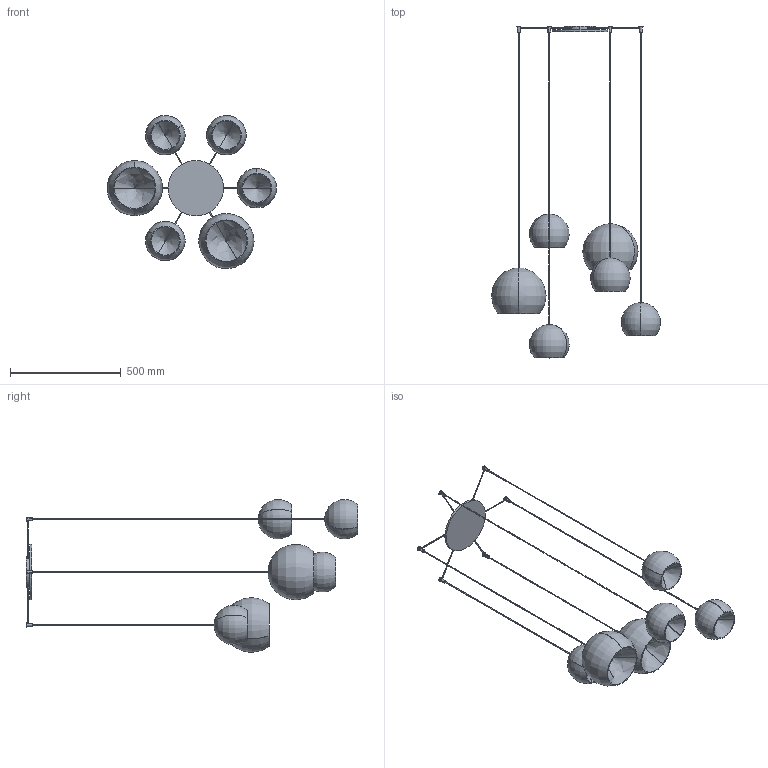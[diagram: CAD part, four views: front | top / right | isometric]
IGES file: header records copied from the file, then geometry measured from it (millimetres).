
Start section: SolidWorks IGES file using analytic representation for surfaces
Global section: file name: Y:\eforma\TECNICO\SOLIDWORKS\E-FORMA\09-LAMPADE\CHERRY MIX\08 modelli 3D web\CRM06-00-CHERRY MIX_6 SOSPENSIONE.IGS; native system: SolidWorks 2022; preprocessor: SolidWorks 2022; author: eforma.tech; date: 240801.144146; units: millimetre
Bounding box: 763.45 x 1500 x 691.58 mm (x, y, z)
Volume: 2283585.1 mm3; surface area: 1864172.9 mm2
Topology: 31 solids, 31 shells, 228 faces, 482 edges, 305 vertices
Faces by surface type: revolution 157, plane 71
